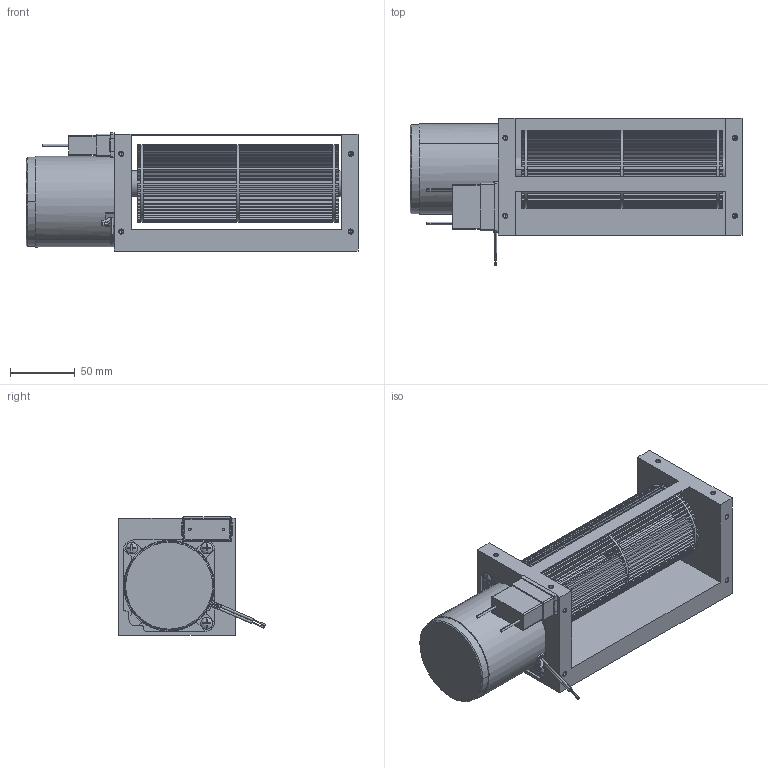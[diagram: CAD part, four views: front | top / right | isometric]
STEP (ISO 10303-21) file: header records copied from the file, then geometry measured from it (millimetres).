
FILE_DESCRIPTION( ( '' ), '1' );
FILE_NAME( 'c:/cad_url_generator/oriental/selction_from_product_tree/fan/cross_flow_fan/mf_series/150/MF915-BC.STEP', '2012-06-15T02:38:34', ( '' ), ( '' ), ' ', ' ', ' ' );
FILE_SCHEMA( ( 'CONFIG_CONTROL_DESIGN' ) );
Length unit declared in the file: millimetre
Products named in the file (1): 1
Bounding box: 256 x 113.27 x 91 mm (x, y, z)
Volume: 854051.3 mm3; surface area: 296258.3 mm2
Topology: 1 solids, 1 shells, 1130 faces, 3620 edges, 2370 vertices
Faces by surface type: plane 724, cylinder 330, cone 66, torus 10
Entity records: 40811 total; most frequent: CARTESIAN_POINT 7527, ORIENTED_EDGE 7176, DIRECTION 7013, EDGE_CURVE 3588, VERTEX_POINT 2370, AXIS2_PLACEMENT_3D 2340, LINE 2333, VECTOR 2333
